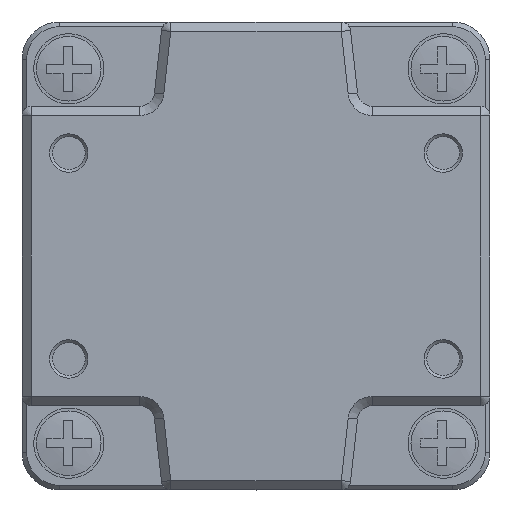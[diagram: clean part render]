
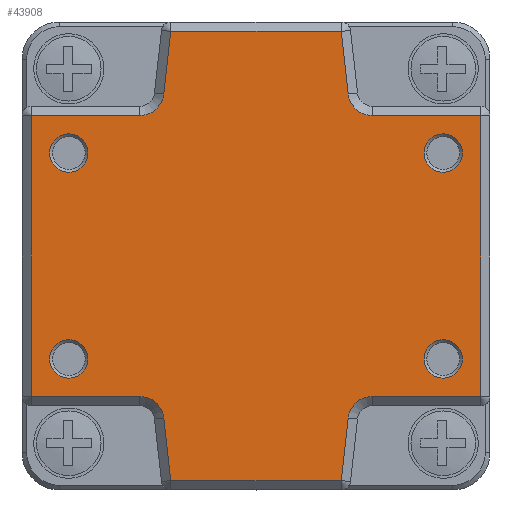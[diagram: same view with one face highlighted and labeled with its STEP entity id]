
A CAD part, front view. The second image highlights one B-rep face of the part: STEP entity #43908.
In plain terms, the highlighted planar face has unit normal (0, -1, 0).
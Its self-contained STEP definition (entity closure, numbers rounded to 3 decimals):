
#4029=LINE('',#65574,#7980);
#4032=LINE('',#65582,#7983);
#4033=LINE('',#65584,#7984);
#4034=LINE('',#65586,#7985);
#4035=LINE('',#65590,#7986);
#4036=LINE('',#65592,#7987);
#4037=LINE('',#65594,#7988);
#4038=LINE('',#65598,#7989);
#4039=LINE('',#65600,#7990);
#4040=LINE('',#65602,#7991);
#4041=LINE('',#65605,#7992);
#4042=LINE('',#65606,#7993);
#7980=VECTOR('',#52695,6.728);
#7983=VECTOR('',#52702,11.568);
#7984=VECTOR('',#52703,30.);
#7985=VECTOR('',#52704,11.568);
#7986=VECTOR('',#52707,6.728);
#7987=VECTOR('',#52708,18.21);
#7988=VECTOR('',#52709,6.728);
#7989=VECTOR('',#52712,11.568);
#7990=VECTOR('',#52713,30.);
#7991=VECTOR('',#52714,11.568);
#7992=VECTOR('',#52717,18.21);
#7993=VECTOR('',#52718,6.728);
#11499=FACE_BOUND('',#14511,.T.);
#11500=FACE_BOUND('',#14512,.T.);
#11501=FACE_BOUND('',#14513,.T.);
#11502=FACE_BOUND('',#14514,.T.);
#11903=FACE_OUTER_BOUND('',#14510,.T.);
#14510=EDGE_LOOP('',(#31418,#31419,#31420,#31421,#31422,#31423,#31424,#31425,
#31426,#31427,#31428,#31429,#31430,#31431,#31432,#31433));
#14511=EDGE_LOOP('',(#31434,#31435));
#14512=EDGE_LOOP('',(#31436,#31437));
#14513=EDGE_LOOP('',(#31438,#31439));
#14514=EDGE_LOOP('',(#31440,#31441));
#17091=CIRCLE('',#46800,2.6);
#17092=CIRCLE('',#46801,2.6);
#17093=CIRCLE('',#46802,2.6);
#17094=CIRCLE('',#46803,2.6);
#17095=CIRCLE('',#46804,2.05);
#17096=CIRCLE('',#46805,2.05);
#17097=CIRCLE('',#46806,2.05);
#17098=CIRCLE('',#46807,2.05);
#17099=CIRCLE('',#46808,2.05);
#17100=CIRCLE('',#46809,2.05);
#17101=CIRCLE('',#46810,2.05);
#17102=CIRCLE('',#46811,2.05);
#19681=VERTEX_POINT('',#65572);
#19682=VERTEX_POINT('',#65573);
#19683=VERTEX_POINT('',#65578);
#19684=VERTEX_POINT('',#65579);
#19685=VERTEX_POINT('',#65581);
#19686=VERTEX_POINT('',#65583);
#19687=VERTEX_POINT('',#65585);
#19688=VERTEX_POINT('',#65587);
#19689=VERTEX_POINT('',#65589);
#19690=VERTEX_POINT('',#65591);
#19691=VERTEX_POINT('',#65593);
#19692=VERTEX_POINT('',#65595);
#19693=VERTEX_POINT('',#65597);
#19694=VERTEX_POINT('',#65599);
#19695=VERTEX_POINT('',#65601);
#19696=VERTEX_POINT('',#65604);
#19697=VERTEX_POINT('',#65607);
#19698=VERTEX_POINT('',#65608);
#19699=VERTEX_POINT('',#65611);
#19700=VERTEX_POINT('',#65612);
#19701=VERTEX_POINT('',#65615);
#19702=VERTEX_POINT('',#65616);
#19703=VERTEX_POINT('',#65619);
#19704=VERTEX_POINT('',#65620);
#24093=EDGE_CURVE('',#19681,#19682,#4029,.T.);
#24096=EDGE_CURVE('',#19683,#19684,#17091,.T.);
#24097=EDGE_CURVE('',#19685,#19683,#4032,.T.);
#24098=EDGE_CURVE('',#19686,#19685,#4033,.T.);
#24099=EDGE_CURVE('',#19687,#19686,#4034,.T.);
#24100=EDGE_CURVE('',#19688,#19687,#17092,.T.);
#24101=EDGE_CURVE('',#19689,#19688,#4035,.T.);
#24102=EDGE_CURVE('',#19690,#19689,#4036,.T.);
#24103=EDGE_CURVE('',#19691,#19690,#4037,.T.);
#24104=EDGE_CURVE('',#19692,#19691,#17093,.T.);
#24105=EDGE_CURVE('',#19693,#19692,#4038,.T.);
#24106=EDGE_CURVE('',#19694,#19693,#4039,.T.);
#24107=EDGE_CURVE('',#19695,#19694,#4040,.T.);
#24108=EDGE_CURVE('',#19682,#19695,#17094,.T.);
#24109=EDGE_CURVE('',#19696,#19681,#4041,.T.);
#24110=EDGE_CURVE('',#19684,#19696,#4042,.T.);
#24111=EDGE_CURVE('',#19697,#19698,#17095,.T.);
#24112=EDGE_CURVE('',#19698,#19697,#17096,.T.);
#24113=EDGE_CURVE('',#19699,#19700,#17097,.T.);
#24114=EDGE_CURVE('',#19700,#19699,#17098,.T.);
#24115=EDGE_CURVE('',#19701,#19702,#17099,.T.);
#24116=EDGE_CURVE('',#19702,#19701,#17100,.T.);
#24117=EDGE_CURVE('',#19703,#19704,#17101,.T.);
#24118=EDGE_CURVE('',#19704,#19703,#17102,.T.);
#31418=ORIENTED_EDGE('',*,*,#24096,.F.);
#31419=ORIENTED_EDGE('',*,*,#24097,.F.);
#31420=ORIENTED_EDGE('',*,*,#24098,.F.);
#31421=ORIENTED_EDGE('',*,*,#24099,.F.);
#31422=ORIENTED_EDGE('',*,*,#24100,.F.);
#31423=ORIENTED_EDGE('',*,*,#24101,.F.);
#31424=ORIENTED_EDGE('',*,*,#24102,.F.);
#31425=ORIENTED_EDGE('',*,*,#24103,.F.);
#31426=ORIENTED_EDGE('',*,*,#24104,.F.);
#31427=ORIENTED_EDGE('',*,*,#24105,.F.);
#31428=ORIENTED_EDGE('',*,*,#24106,.F.);
#31429=ORIENTED_EDGE('',*,*,#24107,.F.);
#31430=ORIENTED_EDGE('',*,*,#24108,.F.);
#31431=ORIENTED_EDGE('',*,*,#24093,.F.);
#31432=ORIENTED_EDGE('',*,*,#24109,.F.);
#31433=ORIENTED_EDGE('',*,*,#24110,.F.);
#31434=ORIENTED_EDGE('',*,*,#24111,.F.);
#31435=ORIENTED_EDGE('',*,*,#24112,.F.);
#31436=ORIENTED_EDGE('',*,*,#24113,.F.);
#31437=ORIENTED_EDGE('',*,*,#24114,.F.);
#31438=ORIENTED_EDGE('',*,*,#24115,.F.);
#31439=ORIENTED_EDGE('',*,*,#24116,.F.);
#31440=ORIENTED_EDGE('',*,*,#24117,.F.);
#31441=ORIENTED_EDGE('',*,*,#24118,.F.);
#42537=PLANE('',#46799);
#43908=ADVANCED_FACE('',(#11903,#11499,#11500,#11501,#11502),#42537,.T.);
#46799=AXIS2_PLACEMENT_3D('',#65577,#52698,#52699);
#46800=AXIS2_PLACEMENT_3D('',#65580,#52700,#52701);
#46801=AXIS2_PLACEMENT_3D('',#65588,#52705,#52706);
#46802=AXIS2_PLACEMENT_3D('',#65596,#52710,#52711);
#46803=AXIS2_PLACEMENT_3D('',#65603,#52715,#52716);
#46804=AXIS2_PLACEMENT_3D('',#65609,#52719,#52720);
#46805=AXIS2_PLACEMENT_3D('',#65610,#52721,#52722);
#46806=AXIS2_PLACEMENT_3D('',#65613,#52723,#52724);
#46807=AXIS2_PLACEMENT_3D('',#65614,#52725,#52726);
#46808=AXIS2_PLACEMENT_3D('',#65617,#52727,#52728);
#46809=AXIS2_PLACEMENT_3D('',#65618,#52729,#52730);
#46810=AXIS2_PLACEMENT_3D('',#65621,#52731,#52732);
#46811=AXIS2_PLACEMENT_3D('',#65622,#52733,#52734);
#52695=DIRECTION('',(-0.11,0.,0.994));
#52698=DIRECTION('center_axis',(0.,-1.,0.));
#52699=DIRECTION('ref_axis',(1.,0.,0.));
#52700=DIRECTION('center_axis',(0.,-1.,0.));
#52701=DIRECTION('ref_axis',(0.,0.,1.));
#52702=DIRECTION('',(-1.,0.,0.));
#52703=DIRECTION('',(0.,0.,-1.));
#52704=DIRECTION('',(1.,0.,0.));
#52705=DIRECTION('center_axis',(0.,-1.,0.));
#52706=DIRECTION('ref_axis',(-0.994,0.,-0.11));
#52707=DIRECTION('',(0.11,0.,-0.994));
#52708=DIRECTION('',(1.,0.,0.));
#52709=DIRECTION('',(0.11,0.,0.994));
#52710=DIRECTION('center_axis',(0.,-1.,0.));
#52711=DIRECTION('ref_axis',(0.,0.,-1.));
#52712=DIRECTION('',(1.,0.,0.));
#52713=DIRECTION('',(0.,0.,1.));
#52714=DIRECTION('',(-1.,0.,0.));
#52715=DIRECTION('center_axis',(0.,-1.,0.));
#52716=DIRECTION('ref_axis',(0.994,0.,0.11));
#52717=DIRECTION('',(-1.,0.,0.));
#52718=DIRECTION('',(-0.11,0.,-0.994));
#52719=DIRECTION('center_axis',(0.,-1.,0.));
#52720=DIRECTION('ref_axis',(-1.,0.,0.));
#52721=DIRECTION('center_axis',(0.,-1.,0.));
#52722=DIRECTION('ref_axis',(-1.,0.,0.));
#52723=DIRECTION('center_axis',(0.,-1.,0.));
#52724=DIRECTION('ref_axis',(-1.,0.,0.));
#52725=DIRECTION('center_axis',(0.,-1.,0.));
#52726=DIRECTION('ref_axis',(-1.,0.,0.));
#52727=DIRECTION('center_axis',(0.,-1.,0.));
#52728=DIRECTION('ref_axis',(-1.,0.,0.));
#52729=DIRECTION('center_axis',(0.,-1.,0.));
#52730=DIRECTION('ref_axis',(-1.,0.,0.));
#52731=DIRECTION('center_axis',(0.,-1.,0.));
#52732=DIRECTION('ref_axis',(-1.,0.,0.));
#52733=DIRECTION('center_axis',(0.,-1.,0.));
#52734=DIRECTION('ref_axis',(-1.,0.,0.));
#65572=CARTESIAN_POINT('',(-9.105,23.,-24.));
#65573=CARTESIAN_POINT('',(-9.848,23.,-17.313));
#65574=CARTESIAN_POINT('',(-9.105,23.,-24.));
#65577=CARTESIAN_POINT('Origin',(0.,23.,0.));
#65578=CARTESIAN_POINT('',(12.432,23.,-15.));
#65579=CARTESIAN_POINT('',(9.848,23.,-17.313));
#65580=CARTESIAN_POINT('Origin',(12.432,23.,-17.6));
#65581=CARTESIAN_POINT('',(24.,23.,-15.));
#65582=CARTESIAN_POINT('',(24.,23.,-15.));
#65583=CARTESIAN_POINT('',(24.,23.,15.));
#65584=CARTESIAN_POINT('',(24.,23.,15.));
#65585=CARTESIAN_POINT('',(12.432,23.,15.));
#65586=CARTESIAN_POINT('',(12.432,23.,15.));
#65587=CARTESIAN_POINT('',(9.848,23.,17.313));
#65588=CARTESIAN_POINT('Origin',(12.432,23.,17.6));
#65589=CARTESIAN_POINT('',(9.105,23.,24.));
#65590=CARTESIAN_POINT('',(9.105,23.,24.));
#65591=CARTESIAN_POINT('',(-9.105,23.,24.));
#65592=CARTESIAN_POINT('',(-9.105,23.,24.));
#65593=CARTESIAN_POINT('',(-9.848,23.,17.313));
#65594=CARTESIAN_POINT('',(-9.848,23.,17.313));
#65595=CARTESIAN_POINT('',(-12.432,23.,15.));
#65596=CARTESIAN_POINT('Origin',(-12.432,23.,17.6));
#65597=CARTESIAN_POINT('',(-24.,23.,15.));
#65598=CARTESIAN_POINT('',(-24.,23.,15.));
#65599=CARTESIAN_POINT('',(-24.,23.,-15.));
#65600=CARTESIAN_POINT('',(-24.,23.,-15.));
#65601=CARTESIAN_POINT('',(-12.432,23.,-15.));
#65602=CARTESIAN_POINT('',(-12.432,23.,-15.));
#65603=CARTESIAN_POINT('Origin',(-12.432,23.,-17.6));
#65604=CARTESIAN_POINT('',(9.105,23.,-24.));
#65605=CARTESIAN_POINT('',(9.105,23.,-24.));
#65606=CARTESIAN_POINT('',(9.848,23.,-17.313));
#65607=CARTESIAN_POINT('',(17.95,23.,11.));
#65608=CARTESIAN_POINT('',(20.,23.,13.05));
#65609=CARTESIAN_POINT('Origin',(20.,23.,11.));
#65610=CARTESIAN_POINT('Origin',(20.,23.,11.));
#65611=CARTESIAN_POINT('',(-22.05,23.,11.));
#65612=CARTESIAN_POINT('',(-20.,23.,13.05));
#65613=CARTESIAN_POINT('Origin',(-20.,23.,11.));
#65614=CARTESIAN_POINT('Origin',(-20.,23.,11.));
#65615=CARTESIAN_POINT('',(-22.05,23.,-11.));
#65616=CARTESIAN_POINT('',(-20.,23.,-8.95));
#65617=CARTESIAN_POINT('Origin',(-20.,23.,-11.));
#65618=CARTESIAN_POINT('Origin',(-20.,23.,-11.));
#65619=CARTESIAN_POINT('',(17.95,23.,-11.));
#65620=CARTESIAN_POINT('',(20.,23.,-8.95));
#65621=CARTESIAN_POINT('Origin',(20.,23.,-11.));
#65622=CARTESIAN_POINT('Origin',(20.,23.,-11.));
